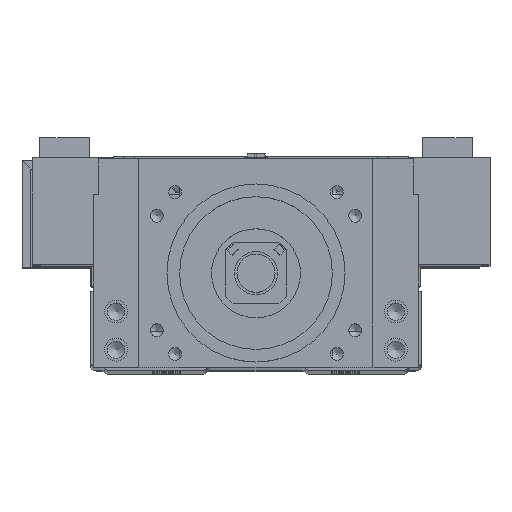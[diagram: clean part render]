
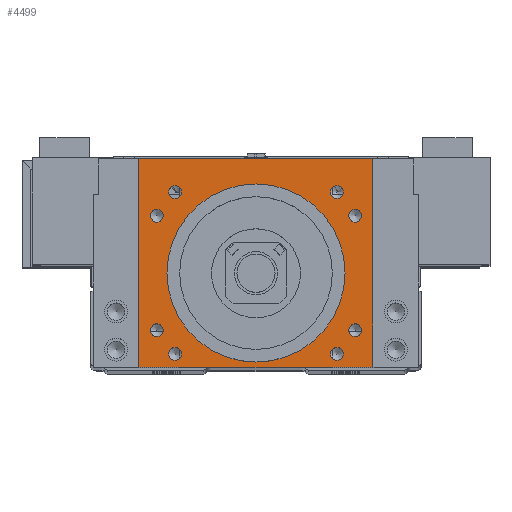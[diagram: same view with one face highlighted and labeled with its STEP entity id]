
A CAD part, top view. The second image highlights one B-rep face of the part: STEP entity #4499.
In plain terms, the highlighted planar face has unit normal (0, 0, 1).
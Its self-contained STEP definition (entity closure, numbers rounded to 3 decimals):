
#1855=FACE_BOUND('',#10136,.T.);
#1856=FACE_BOUND('',#10137,.T.);
#1857=FACE_BOUND('',#10138,.T.);
#1858=FACE_BOUND('',#10139,.T.);
#1859=FACE_BOUND('',#10140,.T.);
#1860=FACE_BOUND('',#10141,.T.);
#1861=FACE_BOUND('',#10142,.T.);
#1862=FACE_BOUND('',#10143,.T.);
#1863=FACE_BOUND('',#10144,.T.);
#1864=FACE_BOUND('',#10145,.T.);
#2702=CIRCLE('',#38030,35.015);
#2703=CIRCLE('',#38032,2.5);
#2704=CIRCLE('',#38033,2.5);
#2705=CIRCLE('',#38034,2.5);
#2706=CIRCLE('',#38035,2.5);
#2707=CIRCLE('',#38036,2.5);
#2708=CIRCLE('',#38037,2.5);
#2709=CIRCLE('',#38038,2.5);
#2710=CIRCLE('',#38039,2.5);
#4499=ADVANCED_FACE('',(#1855,#1856,#1857,#1858,#1859,#1860,#1861,#1862,
#1863,#1864),#6505,.T.);
#6505=PLANE('',#38040);
#10136=EDGE_LOOP('',(#17693,#17694,#17695,#17696));
#10137=EDGE_LOOP('',(#17697));
#10138=EDGE_LOOP('',(#17698));
#10139=EDGE_LOOP('',(#17699));
#10140=EDGE_LOOP('',(#17700));
#10141=EDGE_LOOP('',(#17701));
#10142=EDGE_LOOP('',(#17702));
#10143=EDGE_LOOP('',(#17703));
#10144=EDGE_LOOP('',(#17704));
#10145=EDGE_LOOP('',(#17705));
#17693=ORIENTED_EDGE('',*,*,#27059,.T.);
#17694=ORIENTED_EDGE('',*,*,#26493,.T.);
#17695=ORIENTED_EDGE('',*,*,#27054,.T.);
#17696=ORIENTED_EDGE('',*,*,#27064,.T.);
#17697=ORIENTED_EDGE('',*,*,#27072,.F.);
#17698=ORIENTED_EDGE('',*,*,#27073,.T.);
#17699=ORIENTED_EDGE('',*,*,#27074,.T.);
#17700=ORIENTED_EDGE('',*,*,#27075,.F.);
#17701=ORIENTED_EDGE('',*,*,#27071,.F.);
#17702=ORIENTED_EDGE('',*,*,#27076,.T.);
#17703=ORIENTED_EDGE('',*,*,#27077,.T.);
#17704=ORIENTED_EDGE('',*,*,#27078,.T.);
#17705=ORIENTED_EDGE('',*,*,#27079,.T.);
#22267=VERTEX_POINT('',#53967);
#22268=VERTEX_POINT('',#53969);
#22675=VERTEX_POINT('',#55317);
#22677=VERTEX_POINT('',#55328);
#22683=VERTEX_POINT('',#55352);
#22684=VERTEX_POINT('',#55355);
#22685=VERTEX_POINT('',#55357);
#22686=VERTEX_POINT('',#55359);
#22687=VERTEX_POINT('',#55361);
#22688=VERTEX_POINT('',#55363);
#22689=VERTEX_POINT('',#55365);
#22690=VERTEX_POINT('',#55367);
#22691=VERTEX_POINT('',#55369);
#26493=EDGE_CURVE('',#22268,#22267,#31217,.T.);
#27054=EDGE_CURVE('',#22267,#22675,#31585,.T.);
#27059=EDGE_CURVE('',#22677,#22268,#31590,.T.);
#27064=EDGE_CURVE('',#22675,#22677,#31595,.T.);
#27071=EDGE_CURVE('',#22683,#22683,#2702,.T.);
#27072=EDGE_CURVE('',#22684,#22684,#2703,.T.);
#27073=EDGE_CURVE('',#22685,#22685,#2704,.T.);
#27074=EDGE_CURVE('',#22686,#22686,#2705,.T.);
#27075=EDGE_CURVE('',#22687,#22687,#2706,.T.);
#27076=EDGE_CURVE('',#22688,#22688,#2707,.T.);
#27077=EDGE_CURVE('',#22689,#22689,#2708,.T.);
#27078=EDGE_CURVE('',#22690,#22690,#2709,.T.);
#27079=EDGE_CURVE('',#22691,#22691,#2710,.T.);
#31217=LINE('',#53968,#35160);
#31585=LINE('',#55319,#35528);
#31590=LINE('',#55327,#35533);
#31595=LINE('',#55336,#35538);
#35160=VECTOR('',#44211,1.);
#35528=VECTOR('',#45327,1.);
#35533=VECTOR('',#45338,1.);
#35538=VECTOR('',#45345,1.);
#38030=AXIS2_PLACEMENT_3D('',#55351,#45364,#45365);
#38032=AXIS2_PLACEMENT_3D('',#55354,#45368,#45369);
#38033=AXIS2_PLACEMENT_3D('',#55356,#45370,#45371);
#38034=AXIS2_PLACEMENT_3D('',#55358,#45372,#45373);
#38035=AXIS2_PLACEMENT_3D('',#55360,#45374,#45375);
#38036=AXIS2_PLACEMENT_3D('',#55362,#45376,#45377);
#38037=AXIS2_PLACEMENT_3D('',#55364,#45378,#45379);
#38038=AXIS2_PLACEMENT_3D('',#55366,#45380,#45381);
#38039=AXIS2_PLACEMENT_3D('',#55368,#45382,#45383);
#38040=AXIS2_PLACEMENT_3D('',#55370,#45384,#45385);
#44211=DIRECTION('',(-1.,0.,0.));
#45327=DIRECTION('',(0.,-1.,0.));
#45338=DIRECTION('',(0.,1.,0.));
#45345=DIRECTION('',(1.,0.,0.));
#45364=DIRECTION('',(0.,0.,1.));
#45365=DIRECTION('',(1.,0.,0.));
#45368=DIRECTION('',(0.,0.,1.));
#45369=DIRECTION('',(-1.,0.,0.));
#45370=DIRECTION('',(0.,0.,-1.));
#45371=DIRECTION('',(1.,0.,0.));
#45372=DIRECTION('',(0.,0.,-1.));
#45373=DIRECTION('',(1.,0.,0.));
#45374=DIRECTION('',(0.,0.,1.));
#45375=DIRECTION('',(-1.,0.,0.));
#45376=DIRECTION('',(0.,0.,-1.));
#45377=DIRECTION('',(1.,0.,0.));
#45378=DIRECTION('',(0.,0.,-1.));
#45379=DIRECTION('',(1.,0.,0.));
#45380=DIRECTION('',(0.,0.,-1.));
#45381=DIRECTION('',(1.,0.,0.));
#45382=DIRECTION('',(0.,0.,-1.));
#45383=DIRECTION('',(1.,0.,0.));
#45384=DIRECTION('',(0.,0.,1.));
#45385=DIRECTION('',(-1.,0.,0.));
#53967=CARTESIAN_POINT('',(-46.,83.,100.));
#53968=CARTESIAN_POINT('',(0.,83.,100.));
#53969=CARTESIAN_POINT('',(46.,83.,100.));
#55317=CARTESIAN_POINT('',(-46.,1.,100.));
#55319=CARTESIAN_POINT('',(-46.,38.,100.));
#55327=CARTESIAN_POINT('',(46.,38.,100.));
#55328=CARTESIAN_POINT('',(46.,1.,100.));
#55336=CARTESIAN_POINT('',(0.,1.,100.));
#55351=CARTESIAN_POINT('',(0.,38.,100.));
#55352=CARTESIAN_POINT('',(35.015,38.,100.));
#55354=CARTESIAN_POINT('',(-38.971,15.5,100.));
#55355=CARTESIAN_POINT('',(-41.471,15.5,100.));
#55356=CARTESIAN_POINT('',(38.971,60.5,100.));
#55357=CARTESIAN_POINT('',(41.471,60.5,100.));
#55358=CARTESIAN_POINT('',(38.971,15.5,100.));
#55359=CARTESIAN_POINT('',(41.471,15.5,100.));
#55360=CARTESIAN_POINT('',(-38.971,60.5,100.));
#55361=CARTESIAN_POINT('',(-41.471,60.5,100.));
#55362=CARTESIAN_POINT('',(-31.82,69.82,100.));
#55363=CARTESIAN_POINT('',(-29.32,69.82,100.));
#55364=CARTESIAN_POINT('',(-31.82,6.18,100.));
#55365=CARTESIAN_POINT('',(-29.32,6.18,100.));
#55366=CARTESIAN_POINT('',(31.82,6.18,100.));
#55367=CARTESIAN_POINT('',(34.32,6.18,100.));
#55368=CARTESIAN_POINT('',(31.82,69.82,100.));
#55369=CARTESIAN_POINT('',(34.32,69.82,100.));
#55370=CARTESIAN_POINT('',(0.,38.,100.));
